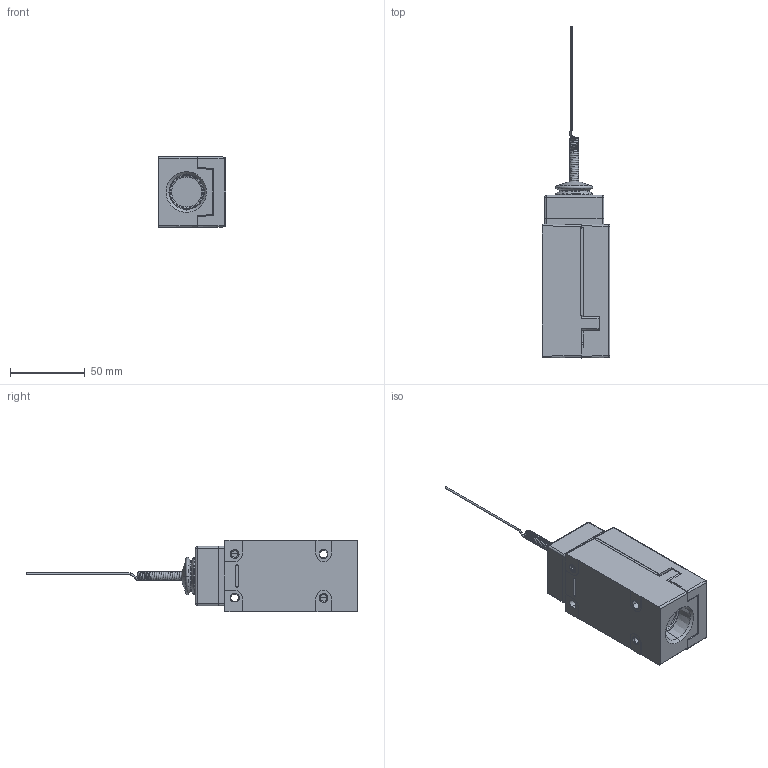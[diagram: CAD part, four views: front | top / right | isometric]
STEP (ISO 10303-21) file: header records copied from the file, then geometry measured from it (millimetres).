
FILE_DESCRIPTION((''),'2;1');
FILE_NAME('LSK2B-8A','2012-12-06T',('E522935'),(''),'PRO/ENGINEER BY PARAMETRIC TECHNOLOGY CORPORATION, 2009460','PRO/ENGINEER BY PARAMETRIC TECHNOLOGY CORPORATION, 2009460','');
FILE_SCHEMA(('CONFIG_CONTROL_DESIGN'));
Length unit declared in the file: inch
Products named in the file (1): LSK2B-8A
Bounding box: 45.34 x 222.27 x 47.62 mm (x, y, z)
Volume: 210957.5 mm3; surface area: 34090.5 mm2
Topology: 1 solids, 1 shells, 552 faces, 1453 edges, 903 vertices
Faces by surface type: plane 302, cylinder 165, cone 41, sphere 20, bspline 16, torus 8
Entity records: 26982 total; most frequent: CARTESIAN_POINT 13525, ORIENTED_EDGE 2906, DIRECTION 2690, EDGE_CURVE 1453, AXIS2_PLACEMENT_3D 935, VERTEX_POINT 903, VECTOR 820, LINE 820
